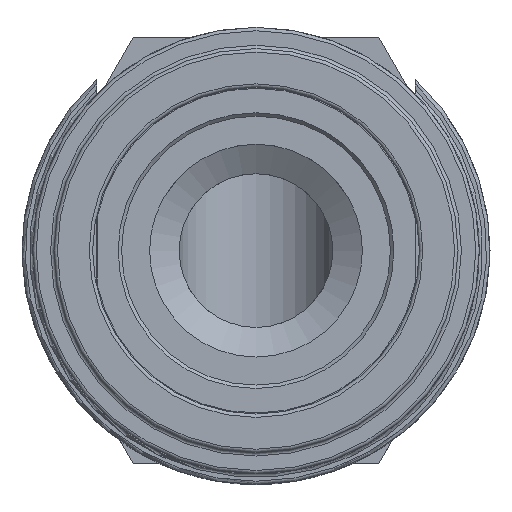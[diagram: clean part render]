
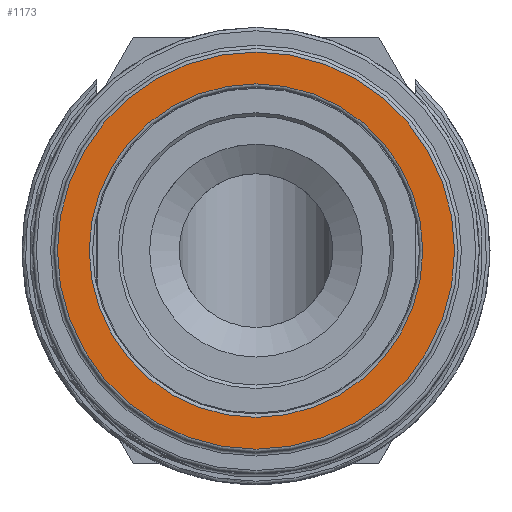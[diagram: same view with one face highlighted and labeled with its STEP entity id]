
A CAD part, front view. The second image highlights one B-rep face of the part: STEP entity #1173.
In plain terms, the highlighted planar face has unit normal (0, -1, 0).
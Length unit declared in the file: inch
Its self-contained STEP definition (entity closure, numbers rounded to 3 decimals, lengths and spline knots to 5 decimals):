
#53=FACE_BOUND('',#211,.T.);
#82=PLANE('',#1316);
#144=FACE_OUTER_BOUND('',#210,.T.);
#210=EDGE_LOOP('',(#1052,#1053));
#211=EDGE_LOOP('',(#1054,#1055));
#443=CIRCLE('',#1313,0.49);
#444=CIRCLE('',#1314,0.49);
#446=CIRCLE('',#1317,0.5835);
#447=CIRCLE('',#1318,0.5835);
#568=VERTEX_POINT('',#2165);
#569=VERTEX_POINT('',#2167);
#570=VERTEX_POINT('',#2172);
#571=VERTEX_POINT('',#2173);
#735=EDGE_CURVE('',#568,#569,#443,.T.);
#736=EDGE_CURVE('',#569,#568,#444,.T.);
#738=EDGE_CURVE('',#570,#571,#446,.T.);
#739=EDGE_CURVE('',#571,#570,#447,.T.);
#1052=ORIENTED_EDGE('',*,*,#738,.F.);
#1053=ORIENTED_EDGE('',*,*,#739,.F.);
#1054=ORIENTED_EDGE('',*,*,#736,.F.);
#1055=ORIENTED_EDGE('',*,*,#735,.F.);
#1173=ADVANCED_FACE('',(#144,#53),#82,.T.);
#1313=AXIS2_PLACEMENT_3D('',#2168,#1631,#1632);
#1314=AXIS2_PLACEMENT_3D('',#2169,#1633,#1634);
#1316=AXIS2_PLACEMENT_3D('',#2171,#1637,#1638);
#1317=AXIS2_PLACEMENT_3D('',#2174,#1639,#1640);
#1318=AXIS2_PLACEMENT_3D('',#2175,#1641,#1642);
#1631=DIRECTION('center_axis',(0.,-1.,0.));
#1632=DIRECTION('ref_axis',(0.,0.,1.));
#1633=DIRECTION('center_axis',(0.,-1.,0.));
#1634=DIRECTION('ref_axis',(0.,0.,1.));
#1637=DIRECTION('center_axis',(0.,-1.,0.));
#1638=DIRECTION('ref_axis',(0.,0.,-1.));
#1639=DIRECTION('center_axis',(0.,1.,0.));
#1640=DIRECTION('ref_axis',(0.,0.,1.));
#1641=DIRECTION('center_axis',(0.,1.,0.));
#1642=DIRECTION('ref_axis',(0.,0.,1.));
#2165=CARTESIAN_POINT('',(0.,0.,0.49));
#2167=CARTESIAN_POINT('',(0.,0.,-0.49));
#2168=CARTESIAN_POINT('Origin',(0.,0.,0.));
#2169=CARTESIAN_POINT('Origin',(0.,0.,0.));
#2171=CARTESIAN_POINT('Origin',(0.,0.,-0.48));
#2172=CARTESIAN_POINT('',(0.,0.,-0.5835));
#2173=CARTESIAN_POINT('',(0.,0.,0.5835));
#2174=CARTESIAN_POINT('Origin',(0.,0.,0.));
#2175=CARTESIAN_POINT('Origin',(0.,0.,0.));
